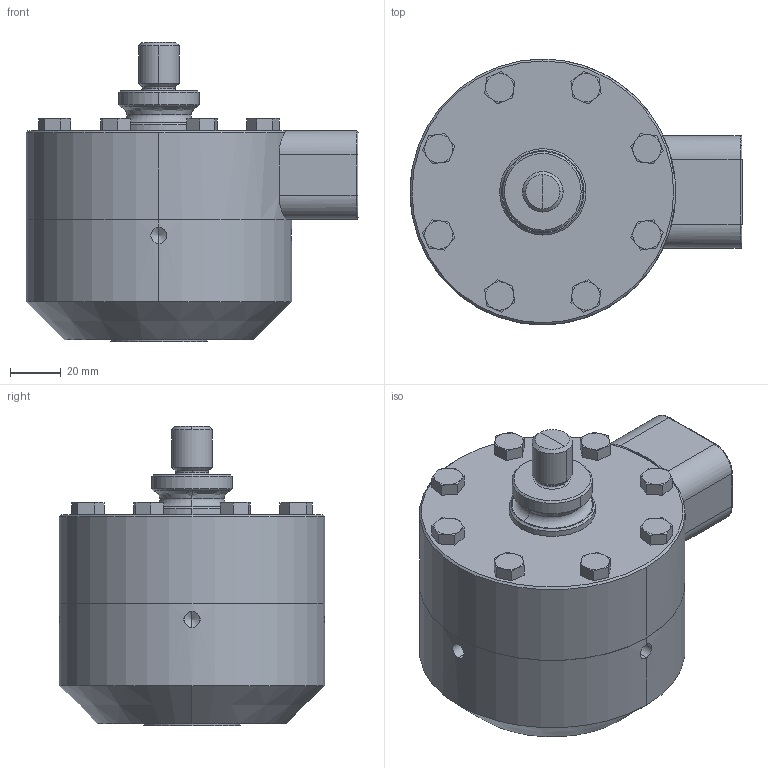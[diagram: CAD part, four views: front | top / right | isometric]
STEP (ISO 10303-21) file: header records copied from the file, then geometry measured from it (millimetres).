
FILE_DESCRIPTION (( 'STEP AP203' ), '1' );
FILE_NAME ('Interface 1810-10KN thru -25KN.STEP', '2012-05-16T00:08:52', ( ' ' ), ( '' ), 'SwSTEP 2.0', 'SolidWorks 2002349', '' );
FILE_SCHEMA (( 'CONFIG_CONTROL_DESIGN' ));
Length unit declared in the file: inch
Products named in the file (1): Interface 1810-10KN thru -25KN
Bounding box: 130.91 x 104.75 x 118.11 mm (x, y, z)
Volume: 719119.3 mm3; surface area: 54395.1 mm2
Topology: 1 solids, 1 shells, 361 faces, 888 edges, 548 vertices
Faces by surface type: plane 165, cylinder 86, cone 80, bspline 26, torus 4
Entity records: 11676 total; most frequent: CARTESIAN_POINT 3486, ORIENTED_EDGE 1748, DIRECTION 1609, EDGE_CURVE 874, AXIS2_PLACEMENT_3D 605, VERTEX_POINT 548, LINE 399, VECTOR 399
